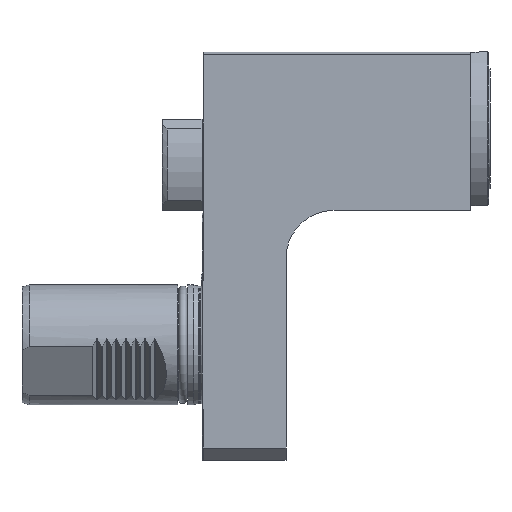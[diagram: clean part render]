
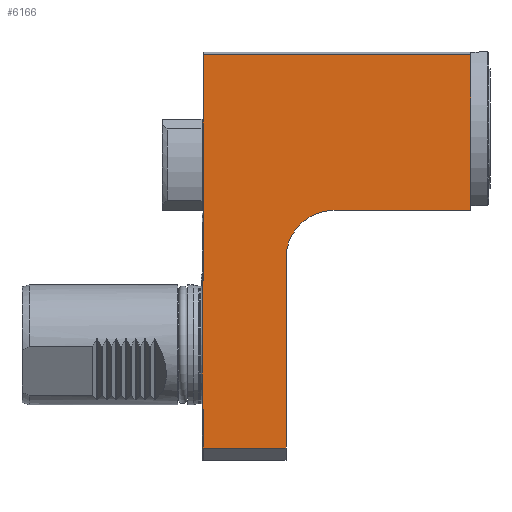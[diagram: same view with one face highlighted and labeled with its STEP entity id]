
A CAD part, front view. The second image highlights one B-rep face of the part: STEP entity #6166.
In plain terms, the highlighted planar face has unit normal (0, -1, 0).
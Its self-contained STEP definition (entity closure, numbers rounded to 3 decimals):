
#204=CIRCLE('',#5699,20.);
#357=ORIENTED_EDGE('',*,*,#1980,.T.);
#358=ORIENTED_EDGE('',*,*,#1981,.T.);
#359=ORIENTED_EDGE('',*,*,#1982,.T.);
#360=ORIENTED_EDGE('',*,*,#1970,.F.);
#361=ORIENTED_EDGE('',*,*,#1983,.T.);
#362=ORIENTED_EDGE('',*,*,#1984,.T.);
#363=ORIENTED_EDGE('',*,*,#1985,.T.);
#364=ORIENTED_EDGE('',*,*,#1986,.F.);
#365=ORIENTED_EDGE('',*,*,#1987,.T.);
#366=ORIENTED_EDGE('',*,*,#1988,.T.);
#367=ORIENTED_EDGE('',*,*,#1989,.T.);
#1228=VECTOR('',#2921,1.);
#1232=VECTOR('',#2939,1.);
#1233=VECTOR('',#2940,1.);
#1234=VECTOR('',#2941,1.);
#1235=VECTOR('',#2942,1.);
#1236=VECTOR('',#2943,1.);
#1237=VECTOR('',#2944,1.);
#1238=VECTOR('',#2945,1.);
#1239=VECTOR('',#2946,1.);
#1240=VECTOR('',#2947,1.);
#1443=LINE('',#3888,#1228);
#1447=LINE('',#3908,#1232);
#1448=LINE('',#3910,#1233);
#1449=LINE('',#3911,#1234);
#1450=LINE('',#3913,#1235);
#1451=LINE('',#3915,#1236);
#1452=LINE('',#3917,#1237);
#1453=LINE('',#3919,#1238);
#1454=LINE('',#3921,#1239);
#1455=LINE('',#3923,#1240);
#1660=VERTEX_POINT('',#3886);
#1661=VERTEX_POINT('',#3887);
#1669=VERTEX_POINT('',#3906);
#1670=VERTEX_POINT('',#3907);
#1671=VERTEX_POINT('',#3909);
#1672=VERTEX_POINT('',#3912);
#1673=VERTEX_POINT('',#3914);
#1674=VERTEX_POINT('',#3916);
#1675=VERTEX_POINT('',#3918);
#1676=VERTEX_POINT('',#3920);
#1677=VERTEX_POINT('',#3922);
#1970=EDGE_CURVE('',#1660,#1661,#1443,.T.);
#1980=EDGE_CURVE('',#1669,#1670,#1447,.T.);
#1981=EDGE_CURVE('',#1670,#1671,#1448,.T.);
#1982=EDGE_CURVE('',#1671,#1661,#1449,.T.);
#1983=EDGE_CURVE('',#1660,#1672,#1450,.T.);
#1984=EDGE_CURVE('',#1672,#1673,#1451,.T.);
#1985=EDGE_CURVE('',#1673,#1674,#1452,.T.);
#1986=EDGE_CURVE('',#1675,#1674,#1453,.T.);
#1987=EDGE_CURVE('',#1675,#1676,#1454,.T.);
#1988=EDGE_CURVE('',#1676,#1677,#1455,.T.);
#1989=EDGE_CURVE('',#1677,#1669,#204,.T.);
#2407=EDGE_LOOP('',(#357,#358,#359,#360,#361,#362,#363,#364,#365,#366,#367));
#2658=FACE_BOUND('',#2407,.T.);
#2921=DIRECTION('',(0.,0.,93.962));
#2937=DIRECTION('',(0.,-1.,0.));
#2938=DIRECTION('',(-1.,0.,0.));
#2939=DIRECTION('',(57.,0.,0.));
#2940=DIRECTION('',(0.,0.,64.814));
#2941=DIRECTION('',(-111.5,0.,0.));
#2942=DIRECTION('',(-0.5,0.,0.));
#2943=DIRECTION('',(0.,0.,-53.703));
#2944=DIRECTION('',(0.5,0.,0.));
#2945=DIRECTION('',(0.,0.,16.149));
#2946=DIRECTION('',(34.5,0.,0.));
#2947=DIRECTION('',(0.,0.,79.));
#2948=DIRECTION('',(0.,1.,0.));
#2949=DIRECTION('',(0.,0.,-20.));
#3886=CARTESIAN_POINT('',(400.5,-48.,26.851));
#3887=CARTESIAN_POINT('',(400.5,-48.,120.814));
#3888=CARTESIAN_POINT('',(400.5,-48.,26.851));
#3905=CARTESIAN_POINT('',(400.,-48.,120.814));
#3906=CARTESIAN_POINT('',(455.,-48.,56.));
#3907=CARTESIAN_POINT('',(512.,-48.,56.));
#3908=CARTESIAN_POINT('',(455.,-48.,56.));
#3909=CARTESIAN_POINT('',(512.,-48.,120.814));
#3910=CARTESIAN_POINT('',(512.,-48.,56.));
#3911=CARTESIAN_POINT('',(512.,-48.,120.814));
#3912=CARTESIAN_POINT('',(400.,-48.,26.851));
#3913=CARTESIAN_POINT('',(400.5,-48.,26.851));
#3914=CARTESIAN_POINT('',(400.,-48.,-26.851));
#3915=CARTESIAN_POINT('',(400.,-48.,26.851));
#3916=CARTESIAN_POINT('',(400.5,-48.,-26.851));
#3917=CARTESIAN_POINT('',(400.,-48.,-26.851));
#3918=CARTESIAN_POINT('',(400.5,-48.,-43.));
#3919=CARTESIAN_POINT('',(400.5,-48.,-43.));
#3920=CARTESIAN_POINT('',(435.,-48.,-43.));
#3921=CARTESIAN_POINT('',(400.5,-48.,-43.));
#3922=CARTESIAN_POINT('',(435.,-48.,36.));
#3923=CARTESIAN_POINT('',(435.,-48.,-43.));
#3924=CARTESIAN_POINT('',(455.,-48.,36.));
#5698=AXIS2_PLACEMENT_3D('',#3905,#2937,#2938);
#5699=AXIS2_PLACEMENT_3D('',#3924,#2948,#2949);
#6063=PLANE('',#5698);
#6166=ADVANCED_FACE('',(#2658),#6063,.T.);
